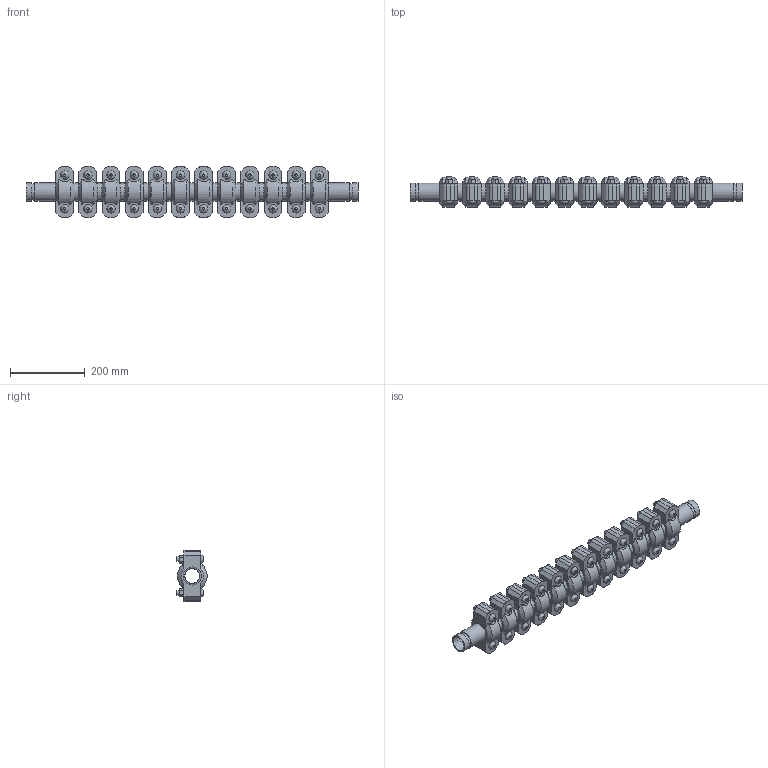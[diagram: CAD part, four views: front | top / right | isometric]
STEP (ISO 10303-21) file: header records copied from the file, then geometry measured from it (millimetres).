
FILE_DESCRIPTION(/* description */ ('VIC EXPANSION JOINT 12 COUPLINGS EXPANDED STYLE 155 (OGS)','CAx-IF Rec.Pracs.---Representation and Presentation of Product Manufacturing Information (PMI)---4.0---2014-10-13'),/* implementation_level */ '2;1');
FILE_NAME(/* name */ 'C:\Users\kkamble\AppData\Roaming\Autodesk\ApplicationPlugins\Victaulic.Temp\A519\Victaulic_IPS_Expansion Joint_Expanded_12 Couplings_Style 155 (OGS)_1.5 (40).stp',/* time_stamp */ '2021-06-26T23:54:00+02:00',/* author */ ('kkamble'),/* organization */ ('Victaulic'),/* preprocessor_version */ 'ST-DEVELOPER v17.2',/* originating_system */ 'Autodesk Inventor 2019',/* authorisation */ '');
FILE_SCHEMA (('AP242_MANAGED_MODEL_BASED_3D_ENGINEERING_MIM_LF { 1 0 10303 442 1 1 4 }'));
Length unit declared in the file: inch
Products named in the file (4): 155-01.5; Nipple-01.5; Nipple-01.5_1; 077-01.5
Assembly tree (25 placements, depth 2):
  155-01.5
    Nipple-01.5  x2
    Nipple-01.5_1  x11
    077-01.5  x12
Bounding box: 889.25 x 81.03 x 136.65 mm (x, y, z)
Volume: 3570773.4 mm3; surface area: 818044.2 mm2
Topology: 25 solids, 49 shells, 888 faces, 2130 edges, 1488 vertices
Faces by surface type: plane 510, cylinder 306, cone 48, bspline 24
Full cylindrical faces by diameter (mm): 12.7 x48, 14.605 x24, 39.37 x12, 40.894 x13, 45.085 x26, 48.26 x63
Entity records: 3129 total; most frequent: CARTESIAN_POINT 617, DIRECTION 513, ORIENTED_EDGE 410, AXIS2_PLACEMENT_3D 208, EDGE_CURVE 205, VERTEX_POINT 146, EDGE_LOOP 111, LINE 97
